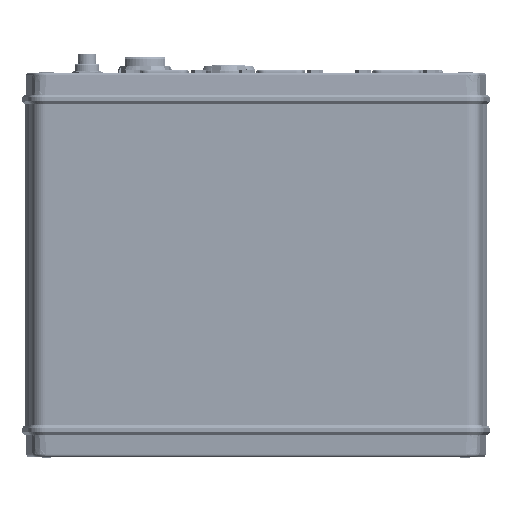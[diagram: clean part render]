
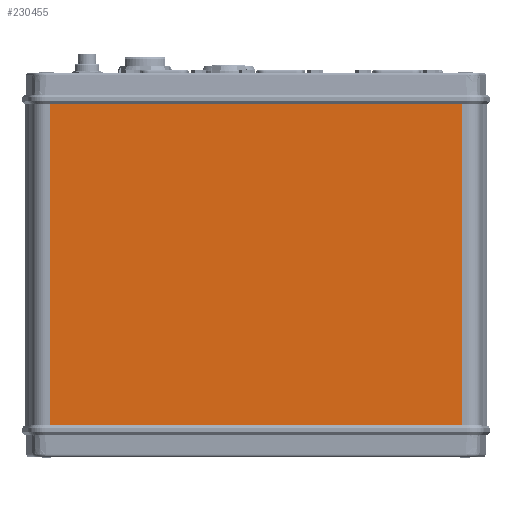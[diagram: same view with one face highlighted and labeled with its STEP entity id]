
A CAD part, top view. The second image highlights one B-rep face of the part: STEP entity #230455.
In plain terms, the highlighted planar face has unit normal (0, 0, 1).
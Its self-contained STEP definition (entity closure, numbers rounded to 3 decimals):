
#9467=PLANE('',#245171);
#17458=FACE_OUTER_BOUND('',#30145,.T.);
#30145=EDGE_LOOP('',(#164939,#164940,#164941,#164942));
#46701=LINE('',#348589,#67186);
#46705=LINE('',#348597,#67190);
#46708=LINE('',#348603,#67193);
#46711=LINE('',#348608,#67196);
#67186=VECTOR('',#279246,10.);
#67190=VECTOR('',#279252,10.);
#67193=VECTOR('',#279257,10.);
#67196=VECTOR('',#279262,10.);
#96367=VERTEX_POINT('',#348587);
#96368=VERTEX_POINT('',#348588);
#96371=VERTEX_POINT('',#348596);
#96373=VERTEX_POINT('',#348602);
#121728=EDGE_CURVE('',#96367,#96368,#46701,.T.);
#121732=EDGE_CURVE('',#96368,#96371,#46705,.T.);
#121735=EDGE_CURVE('',#96371,#96373,#46708,.T.);
#121738=EDGE_CURVE('',#96373,#96367,#46711,.T.);
#164939=ORIENTED_EDGE('',*,*,#121735,.T.);
#164940=ORIENTED_EDGE('',*,*,#121738,.T.);
#164941=ORIENTED_EDGE('',*,*,#121728,.T.);
#164942=ORIENTED_EDGE('',*,*,#121732,.T.);
#230455=ADVANCED_FACE('',(#17458),#9467,.T.);
#245171=AXIS2_PLACEMENT_3D('',#348611,#279266,#279267);
#279246=DIRECTION('',(0.,-1.,0.));
#279252=DIRECTION('',(1.,0.,0.));
#279257=DIRECTION('',(0.,1.,0.));
#279262=DIRECTION('',(-1.,0.,0.));
#279266=DIRECTION('center_axis',(0.,0.,
1.));
#279267=DIRECTION('ref_axis',(1.,0.,0.));
#348587=CARTESIAN_POINT('',(1.5,118.6,48.25));
#348588=CARTESIAN_POINT('',(1.5,1.4,48.25));
#348589=CARTESIAN_POINT('',(1.5,30.7,48.25));
#348596=CARTESIAN_POINT('',(152.,1.4,48.25));
#348597=CARTESIAN_POINT('',(114.375,1.4,48.25));
#348602=CARTESIAN_POINT('',(152.,118.6,48.25));
#348603=CARTESIAN_POINT('',(152.,89.3,48.25));
#348608=CARTESIAN_POINT('',(39.125,118.6,48.25));
#348611=CARTESIAN_POINT('Origin',(76.75,60.,48.25));
